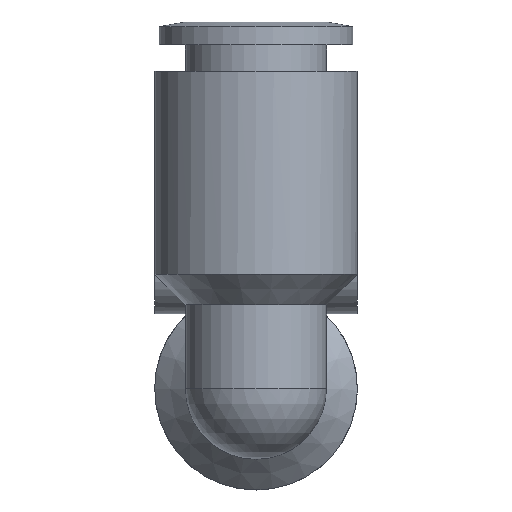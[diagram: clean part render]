
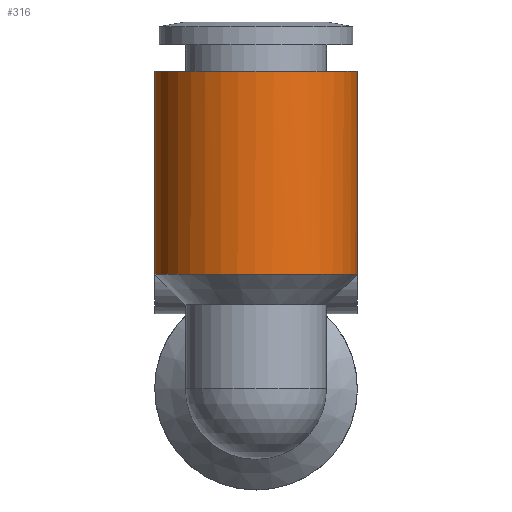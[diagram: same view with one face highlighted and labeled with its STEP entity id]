
A CAD part, front view. The second image highlights one B-rep face of the part: STEP entity #316.
In plain terms, the highlighted cylindrical face has radius 5.75 mm (diameter 11.5 mm), a full revolution.
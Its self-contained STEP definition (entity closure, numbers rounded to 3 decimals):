
#172=CARTESIAN_POINT('',(-3.822,4.296,6.5));
#173=VERTEX_POINT('',#172);
#174=CARTESIAN_POINT('',(3.822,4.296,6.5));
#175=VERTEX_POINT('',#174);
#195=CARTESIAN_POINT('',(3.822,4.296,6.5));
#196=CARTESIAN_POINT('',(3.854,4.268,6.652));
#197=CARTESIAN_POINT('',(3.87,4.253,6.808));
#198=CARTESIAN_POINT('',(3.873,4.25,6.958));
#199=CARTESIAN_POINT('',(3.875,4.248,7.104));
#200=CARTESIAN_POINT('',(3.865,4.258,7.253));
#201=CARTESIAN_POINT('',(3.84,4.28,7.403));
#202=CARTESIAN_POINT('',(3.796,4.32,7.672));
#203=CARTESIAN_POINT('',(3.702,4.403,7.935));
#204=CARTESIAN_POINT('',(3.575,4.503,8.153));
#205=CARTESIAN_POINT('',(3.444,4.607,8.378));
#206=CARTESIAN_POINT('',(3.285,4.724,8.555));
#207=CARTESIAN_POINT('',(3.101,4.842,8.705));
#208=CARTESIAN_POINT('',(2.749,5.068,8.99));
#209=CARTESIAN_POINT('',(2.305,5.293,9.165));
#210=CARTESIAN_POINT('',(1.815,5.456,9.276));
#211=CARTESIAN_POINT('',(1.452,5.577,9.358));
#212=CARTESIAN_POINT('',(1.064,5.664,9.404));
#213=CARTESIAN_POINT('',(0.674,5.71,9.429));
#214=CARTESIAN_POINT('',(0.412,5.741,9.445));
#215=CARTESIAN_POINT('',(0.152,5.754,9.451));
#216=CARTESIAN_POINT('',(-0.107,5.749,9.449));
#217=CARTESIAN_POINT('',(-0.62,5.739,9.444));
#218=CARTESIAN_POINT('',(-1.153,5.657,9.406));
#219=CARTESIAN_POINT('',(-1.648,5.509,9.311));
#220=CARTESIAN_POINT('',(-2.146,5.36,9.215));
#221=CARTESIAN_POINT('',(-2.604,5.145,9.059));
#222=CARTESIAN_POINT('',(-2.975,4.92,8.799));
#223=CARTESIAN_POINT('',(-3.157,4.81,8.672));
#224=CARTESIAN_POINT('',(-3.319,4.698,8.52));
#225=CARTESIAN_POINT('',(-3.456,4.596,8.335));
#226=CARTESIAN_POINT('',(-3.563,4.515,8.189));
#227=CARTESIAN_POINT('',(-3.659,4.437,8.016));
#228=CARTESIAN_POINT('',(-3.729,4.376,7.824));
#229=CARTESIAN_POINT('',(-3.808,4.31,7.612));
#230=CARTESIAN_POINT('',(-3.854,4.267,7.379));
#231=CARTESIAN_POINT('',(-3.868,4.254,7.153));
#232=CARTESIAN_POINT('',(-3.877,4.246,7.013));
#233=CARTESIAN_POINT('',(-3.874,4.249,6.876));
#234=CARTESIAN_POINT('',(-3.859,4.263,6.734));
#235=CARTESIAN_POINT('',(-3.85,4.27,6.656));
#236=CARTESIAN_POINT('',(-3.838,4.281,6.578));
#237=CARTESIAN_POINT('',(-3.822,4.296,6.5));
#238=B_SPLINE_CURVE_WITH_KNOTS('',3,(#195,#196,#197,#198,#199,#200,#201,#202,#203,#204,#205,#206,#207,#208,#209,#210,#211,#212,#213,#214,#215,#216,#217,#218,#219,#220,#221,#222,#223,#224,#225,#226,#227,#228,#229,#230,#231,#232,#233,#234,#235,#236,#237),.UNSPECIFIED.,.F.,.U.,(4,3,3,3,3,3,3,3,3,3,3,3,3,3,4),(-0.584,-0.539,-0.496,-0.417,-0.336,-0.181,-0.067,0.011,0.164,0.318,0.394,0.454,0.52,0.561,0.584),.UNSPECIFIED.);
#239=EDGE_CURVE('',#175,#173,#238,.T.);
#290=CARTESIAN_POINT('',(0.0,0.,12.25));
#291=DIRECTION('',(0.0,0.,1.0));
#292=DIRECTION('',(-1.0,0.0,0.0));
#293=AXIS2_PLACEMENT_3D('',#290,#291,#292);
#294=CYLINDRICAL_SURFACE('',#293,5.75);
#295=CARTESIAN_POINT('',(-5.75,0.,18.0));
#296=VERTEX_POINT('',#295);
#297=CARTESIAN_POINT('',(0.0,0.,18.0));
#298=DIRECTION('',(0.0,0.0,1.0));
#299=DIRECTION('',(-1.0,0.0,0.0));
#300=AXIS2_PLACEMENT_3D('',#297,#298,#299);
#301=CIRCLE('',#300,5.75);
#302=EDGE_CURVE('',#296,#296,#301,.T.);
#303=ORIENTED_EDGE('',*,*,#302,.F.);
#304=EDGE_LOOP('',(#303));
#305=FACE_OUTER_BOUND('',#304,.T.);
#306=ORIENTED_EDGE('',*,*,#239,.T.);
#307=CARTESIAN_POINT('',(0.0,0.,6.5));
#308=DIRECTION('',(0.0,0.0,1.0));
#309=DIRECTION('',(-1.0,0.0,0.0));
#310=AXIS2_PLACEMENT_3D('',#307,#308,#309);
#311=CIRCLE('',#310,5.75);
#312=EDGE_CURVE('',#173,#175,#311,.T.);
#313=ORIENTED_EDGE('',*,*,#312,.T.);
#314=EDGE_LOOP('',(#306,#313));
#315=FACE_BOUND('',#314,.T.);
#316=ADVANCED_FACE('',(#305,#315),#294,.T.);
